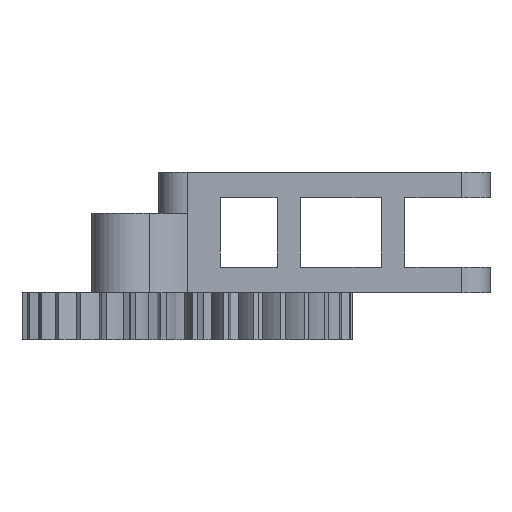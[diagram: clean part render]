
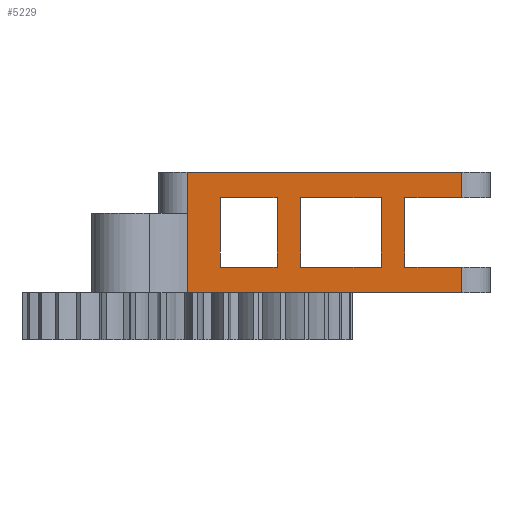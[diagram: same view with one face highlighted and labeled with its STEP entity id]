
A CAD part, left-side view. The second image highlights one B-rep face of the part: STEP entity #5229.
In plain terms, the highlighted planar face has unit normal (-1, 0, 0).
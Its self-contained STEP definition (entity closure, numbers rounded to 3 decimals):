
#25 = DIRECTION ( 'NONE',  ( 0., 1., 0. ) ) ;
#185 = EDGE_CURVE ( 'NONE', #1337, #3705, #3430, .T. ) ;
#317 = ORIENTED_EDGE ( 'NONE', *, *, #5125, .F. ) ;
#324 = CARTESIAN_POINT ( 'NONE',  ( -12., 17., -20.1 ) ) ;
#348 = DIRECTION ( 'NONE',  ( 0., -1., 0. ) ) ;
#386 = LINE ( 'NONE', #5321, #1231 ) ;
#400 = DIRECTION ( 'NONE',  ( 0., 0., -1. ) ) ;
#411 = DIRECTION ( 'NONE',  ( 0., 0., 1. ) ) ;
#417 = DIRECTION ( 'NONE',  ( 0., 1., 0. ) ) ;
#435 = CARTESIAN_POINT ( 'NONE',  ( -12., 58., 0. ) ) ;
#456 = CARTESIAN_POINT ( 'NONE',  ( -12., 0., -20.1 ) ) ;
#467 = ORIENTED_EDGE ( 'NONE', *, *, #931, .F. ) ;
#515 = CARTESIAN_POINT ( 'NONE',  ( -12., 0., 0. ) ) ;
#531 = EDGE_CURVE ( 'NONE', #1946, #557, #2633, .T. ) ;
#557 = VERTEX_POINT ( 'NONE', #3883 ) ;
#565 = EDGE_CURVE ( 'NONE', #2547, #1005, #5676, .T. ) ;
#653 = VERTEX_POINT ( 'NONE', #2323 ) ;
#727 = VERTEX_POINT ( 'NONE', #4946 ) ;
#743 = VECTOR ( 'NONE', #3870, 1000. ) ;
#756 = ORIENTED_EDGE ( 'NONE', *, *, #5623, .F. ) ;
#797 = VERTEX_POINT ( 'NONE', #1109 ) ;
#800 = LINE ( 'NONE', #2255, #893 ) ;
#807 = LINE ( 'NONE', #5790, #5326 ) ;
#887 = LINE ( 'NONE', #2706, #911 ) ;
#893 = VECTOR ( 'NONE', #5611, 1000. ) ;
#911 = VECTOR ( 'NONE', #25, 1000. ) ;
#926 = ORIENTED_EDGE ( 'NONE', *, *, #2469, .F. ) ;
#931 = EDGE_CURVE ( 'NONE', #3948, #4024, #800, .T. ) ;
#982 = LINE ( 'NONE', #1067, #4152 ) ;
#1005 = VERTEX_POINT ( 'NONE', #1039 ) ;
#1039 = CARTESIAN_POINT ( 'NONE',  ( -12., 23.548, -25.5 ) ) ;
#1049 = DIRECTION ( 'NONE',  ( -1., 0., 0. ) ) ;
#1067 = CARTESIAN_POINT ( 'NONE',  ( -12., 39., -5.4 ) ) ;
#1071 = PLANE ( 'NONE',  #1427 ) ;
#1093 = EDGE_CURVE ( 'NONE', #4024, #1628, #1431, .T. ) ;
#1109 = CARTESIAN_POINT ( 'NONE',  ( -12., 39., -20.1 ) ) ;
#1159 = DIRECTION ( 'NONE',  ( 0., 0., -1. ) ) ;
#1194 = VERTEX_POINT ( 'NONE', #5661 ) ;
#1231 = VECTOR ( 'NONE', #4972, 1000. ) ;
#1285 = ORIENTED_EDGE ( 'NONE', *, *, #4428, .F. ) ;
#1303 = CARTESIAN_POINT ( 'NONE',  ( -12., 58., -8.7 ) ) ;
#1337 = VERTEX_POINT ( 'NONE', #4362 ) ;
#1401 = DIRECTION ( 'NONE',  ( 0., 1., 0. ) ) ;
#1427 = AXIS2_PLACEMENT_3D ( 'NONE', #4670, #1049, #5551 ) ;
#1431 = LINE ( 'NONE', #3231, #3261 ) ;
#1432 = DIRECTION ( 'NONE',  ( 0., 1., 0. ) ) ;
#1472 = VERTEX_POINT ( 'NONE', #456 ) ;
#1521 = DIRECTION ( 'NONE',  ( 0., -1., 0. ) ) ;
#1554 = CARTESIAN_POINT ( 'NONE',  ( -12., 17., -5.4 ) ) ;
#1606 = EDGE_CURVE ( 'NONE', #1005, #3705, #887, .T. ) ;
#1628 = VERTEX_POINT ( 'NONE', #2933 ) ;
#1711 = LINE ( 'NONE', #4850, #2440 ) ;
#1733 = DIRECTION ( 'NONE',  ( 0., 0., -1. ) ) ;
#1752 = VERTEX_POINT ( 'NONE', #2066 ) ;
#1769 = CARTESIAN_POINT ( 'NONE',  ( -12., 34., -20.1 ) ) ;
#1881 = ORIENTED_EDGE ( 'NONE', *, *, #5693, .T. ) ;
#1905 = FACE_OUTER_BOUND ( 'NONE', #2373, .T. ) ;
#1919 = ORIENTED_EDGE ( 'NONE', *, *, #565, .F. ) ;
#1946 = VERTEX_POINT ( 'NONE', #2758 ) ;
#2042 = CARTESIAN_POINT ( 'NONE',  ( -12., 0., -5.4 ) ) ;
#2066 = CARTESIAN_POINT ( 'NONE',  ( -12., 39., -5.4 ) ) ;
#2089 = VERTEX_POINT ( 'NONE', #1554 ) ;
#2147 = ORIENTED_EDGE ( 'NONE', *, *, #3756, .F. ) ;
#2197 = VECTOR ( 'NONE', #400, 1000. ) ;
#2221 = ORIENTED_EDGE ( 'NONE', *, *, #4694, .F. ) ;
#2229 = EDGE_CURVE ( 'NONE', #5471, #1337, #807, .T. ) ;
#2255 = CARTESIAN_POINT ( 'NONE',  ( -12., 34., -20.1 ) ) ;
#2321 = VECTOR ( 'NONE', #1521, 1000. ) ;
#2323 = CARTESIAN_POINT ( 'NONE',  ( -12., 0., 0. ) ) ;
#2373 = EDGE_LOOP ( 'NONE', ( #3893, #2738, #3283, #1919, #3277, #4788, #3014, #2394, #2221, #1881 ) ) ;
#2394 = ORIENTED_EDGE ( 'NONE', *, *, #3225, .F. ) ;
#2440 = VECTOR ( 'NONE', #417, 1000. ) ;
#2457 = VECTOR ( 'NONE', #1159, 1000. ) ;
#2469 = EDGE_CURVE ( 'NONE', #727, #797, #3380, .T. ) ;
#2547 = VERTEX_POINT ( 'NONE', #3492 ) ;
#2633 = LINE ( 'NONE', #3507, #2782 ) ;
#2654 = CARTESIAN_POINT ( 'NONE',  ( -12., 58., -25.5 ) ) ;
#2681 = CARTESIAN_POINT ( 'NONE',  ( -12., -6., -20.1 ) ) ;
#2706 = CARTESIAN_POINT ( 'NONE',  ( -12., 58., -25.5 ) ) ;
#2738 = ORIENTED_EDGE ( 'NONE', *, *, #185, .T. ) ;
#2758 = CARTESIAN_POINT ( 'NONE',  ( -12., 12., -5.4 ) ) ;
#2768 = CARTESIAN_POINT ( 'NONE',  ( -12., 51., -20.1 ) ) ;
#2782 = VECTOR ( 'NONE', #4296, 1000. ) ;
#2792 = LINE ( 'NONE', #515, #5631 ) ;
#2881 = CARTESIAN_POINT ( 'NONE',  ( -12., 0., 0. ) ) ;
#2895 = CARTESIAN_POINT ( 'NONE',  ( -12., 0., 0. ) ) ;
#2933 = CARTESIAN_POINT ( 'NONE',  ( -12., 17., -20.1 ) ) ;
#3009 = LINE ( 'NONE', #2895, #4793 ) ;
#3014 = ORIENTED_EDGE ( 'NONE', *, *, #531, .F. ) ;
#3086 = LINE ( 'NONE', #2681, #5092 ) ;
#3110 = VECTOR ( 'NONE', #411, 1000. ) ;
#3169 = DIRECTION ( 'NONE',  ( 0., -1., 0. ) ) ;
#3171 = ORIENTED_EDGE ( 'NONE', *, *, #5796, .F. ) ;
#3225 = EDGE_CURVE ( 'NONE', #4626, #1946, #1711, .T. ) ;
#3231 = CARTESIAN_POINT ( 'NONE',  ( -12., 17., -20.1 ) ) ;
#3261 = VECTOR ( 'NONE', #3169, 1000. ) ;
#3277 = ORIENTED_EDGE ( 'NONE', *, *, #3896, .F. ) ;
#3283 = ORIENTED_EDGE ( 'NONE', *, *, #1606, .F. ) ;
#3351 = LINE ( 'NONE', #2881, #2457 ) ;
#3380 = LINE ( 'NONE', #4281, #2321 ) ;
#3425 = CARTESIAN_POINT ( 'NONE',  ( -12., 0., -25.5 ) ) ;
#3430 = LINE ( 'NONE', #1303, #2197 ) ;
#3492 = CARTESIAN_POINT ( 'NONE',  ( -12., 0., -25.5 ) ) ;
#3507 = CARTESIAN_POINT ( 'NONE',  ( -12., 12., -20.1 ) ) ;
#3525 = VECTOR ( 'NONE', #4355, 1000. ) ;
#3705 = VERTEX_POINT ( 'NONE', #2654 ) ;
#3756 = EDGE_CURVE ( 'NONE', #1194, #727, #4528, .T. ) ;
#3780 = LINE ( 'NONE', #5663, #743 ) ;
#3870 = DIRECTION ( 'NONE',  ( 0., 0., 1. ) ) ;
#3883 = CARTESIAN_POINT ( 'NONE',  ( -12., 12., -20.1 ) ) ;
#3893 = ORIENTED_EDGE ( 'NONE', *, *, #2229, .T. ) ;
#3896 = EDGE_CURVE ( 'NONE', #1472, #2547, #3009, .T. ) ;
#3948 = VERTEX_POINT ( 'NONE', #4416 ) ;
#4020 = DIRECTION ( 'NONE',  ( 0., 0., -1. ) ) ;
#4024 = VERTEX_POINT ( 'NONE', #1769 ) ;
#4152 = VECTOR ( 'NONE', #1401, 1000. ) ;
#4281 = CARTESIAN_POINT ( 'NONE',  ( -12., 39., -20.1 ) ) ;
#4296 = DIRECTION ( 'NONE',  ( 0., 0., -1. ) ) ;
#4355 = DIRECTION ( 'NONE',  ( 0., 1., 0. ) ) ;
#4362 = CARTESIAN_POINT ( 'NONE',  ( -12., 58., -8.7 ) ) ;
#4407 = LINE ( 'NONE', #324, #3110 ) ;
#4416 = CARTESIAN_POINT ( 'NONE',  ( -12., 34., -5.4 ) ) ;
#4428 = EDGE_CURVE ( 'NONE', #1628, #2089, #4407, .T. ) ;
#4457 = ORIENTED_EDGE ( 'NONE', *, *, #1093, .F. ) ;
#4528 = LINE ( 'NONE', #2768, #5531 ) ;
#4626 = VERTEX_POINT ( 'NONE', #2042 ) ;
#4670 = CARTESIAN_POINT ( 'NONE',  ( -12., 0., 0. ) ) ;
#4694 = EDGE_CURVE ( 'NONE', #653, #4626, #3351, .T. ) ;
#4788 = ORIENTED_EDGE ( 'NONE', *, *, #5559, .F. ) ;
#4793 = VECTOR ( 'NONE', #4802, 1000. ) ;
#4802 = DIRECTION ( 'NONE',  ( 0., 0., -1. ) ) ;
#4850 = CARTESIAN_POINT ( 'NONE',  ( -12., -6., -5.4 ) ) ;
#4946 = CARTESIAN_POINT ( 'NONE',  ( -12., 51., -20.1 ) ) ;
#4972 = DIRECTION ( 'NONE',  ( 0., 1., 0. ) ) ;
#5092 = VECTOR ( 'NONE', #348, 1000. ) ;
#5125 = EDGE_CURVE ( 'NONE', #2089, #3948, #386, .T. ) ;
#5229 = ADVANCED_FACE ( 'NONE', ( #1905, #5463, #5490 ), #1071, .T. ) ;
#5321 = CARTESIAN_POINT ( 'NONE',  ( -12., 17., -5.4 ) ) ;
#5326 = VECTOR ( 'NONE', #1733, 1000. ) ;
#5463 = FACE_BOUND ( 'NONE', #5724, .T. ) ;
#5471 = VERTEX_POINT ( 'NONE', #435 ) ;
#5490 = FACE_BOUND ( 'NONE', #5635, .T. ) ;
#5531 = VECTOR ( 'NONE', #4020, 1000. ) ;
#5551 = DIRECTION ( 'NONE',  ( 0., 1., 0. ) ) ;
#5559 = EDGE_CURVE ( 'NONE', #557, #1472, #3086, .T. ) ;
#5611 = DIRECTION ( 'NONE',  ( 0., 0., -1. ) ) ;
#5623 = EDGE_CURVE ( 'NONE', #1752, #1194, #982, .T. ) ;
#5631 = VECTOR ( 'NONE', #1432, 1000. ) ;
#5635 = EDGE_LOOP ( 'NONE', ( #926, #2147, #756, #3171 ) ) ;
#5661 = CARTESIAN_POINT ( 'NONE',  ( -12., 51., -5.4 ) ) ;
#5663 = CARTESIAN_POINT ( 'NONE',  ( -12., 39., -20.1 ) ) ;
#5676 = LINE ( 'NONE', #3425, #3525 ) ;
#5693 = EDGE_CURVE ( 'NONE', #653, #5471, #2792, .T. ) ;
#5724 = EDGE_LOOP ( 'NONE', ( #4457, #467, #317, #1285 ) ) ;
#5790 = CARTESIAN_POINT ( 'NONE',  ( -12., 58., 0. ) ) ;
#5796 = EDGE_CURVE ( 'NONE', #797, #1752, #3780, .T. ) ;
